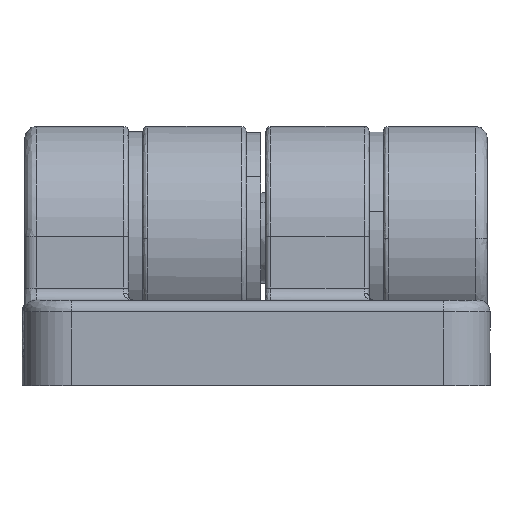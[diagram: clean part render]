
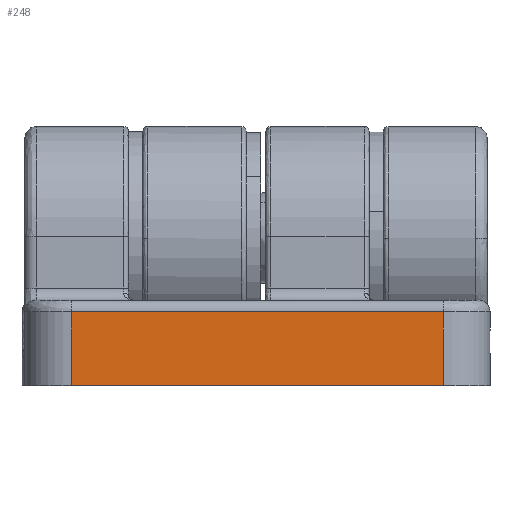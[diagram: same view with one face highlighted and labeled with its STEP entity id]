
A CAD part, left-side view. The second image highlights one B-rep face of the part: STEP entity #248.
In plain terms, the highlighted planar face has unit normal (-1, 0, 0).
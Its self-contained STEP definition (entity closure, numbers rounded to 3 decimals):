
#24 = CARTESIAN_POINT ( 'NONE',  ( -30., -4.75, -15. ) ) ;
#106 = ORIENTED_EDGE ( 'NONE', *, *, #5249, .F. ) ;
#248 = ADVANCED_FACE ( 'NONE', ( #5442 ), #5552, .T. ) ;
#469 = DIRECTION ( 'NONE',  ( 0., 0., -1. ) ) ;
#618 = LINE ( 'NONE', #24, #2907 ) ;
#708 = EDGE_CURVE ( 'NONE', #906, #4000, #732, .T. ) ;
#732 = LINE ( 'NONE', #1653, #4154 ) ;
#906 = VERTEX_POINT ( 'NONE', #3281 ) ;
#918 = ORIENTED_EDGE ( 'NONE', *, *, #4801, .T. ) ;
#1119 = LINE ( 'NONE', #1819, #5598 ) ;
#1314 = CARTESIAN_POINT ( 'NONE',  ( -30., -4., 12. ) ) ;
#1446 = EDGE_CURVE ( 'NONE', #906, #5035, #1697, .T. ) ;
#1653 = CARTESIAN_POINT ( 'NONE',  ( -30., -9.5, -15. ) ) ;
#1697 = LINE ( 'NONE', #1314, #2127 ) ;
#1819 = CARTESIAN_POINT ( 'NONE',  ( -30., -4., -12. ) ) ;
#1841 = DIRECTION ( 'NONE',  ( 0., 0., -1. ) ) ;
#1872 = DIRECTION ( 'NONE',  ( 0., 1., 0. ) ) ;
#1928 = CARTESIAN_POINT ( 'NONE',  ( -30., -4.75, -12. ) ) ;
#2127 = VECTOR ( 'NONE', #4440, 1000. ) ;
#2280 = EDGE_LOOP ( 'NONE', ( #106, #3903, #3647, #918 ) ) ;
#2599 = AXIS2_PLACEMENT_3D ( 'NONE', #4676, #3317, #3344 ) ;
#2907 = VECTOR ( 'NONE', #1841, 1000. ) ;
#3281 = CARTESIAN_POINT ( 'NONE',  ( -30., -9.5, 12. ) ) ;
#3317 = DIRECTION ( 'NONE',  ( -1., 0., 0. ) ) ;
#3344 = DIRECTION ( 'NONE',  ( 0., 0., 1. ) ) ;
#3647 = ORIENTED_EDGE ( 'NONE', *, *, #1446, .T. ) ;
#3903 = ORIENTED_EDGE ( 'NONE', *, *, #708, .F. ) ;
#4000 = VERTEX_POINT ( 'NONE', #4877 ) ;
#4154 = VECTOR ( 'NONE', #469, 1000. ) ;
#4251 = VERTEX_POINT ( 'NONE', #1928 ) ;
#4425 = CARTESIAN_POINT ( 'NONE',  ( -30., -4.75, 12. ) ) ;
#4440 = DIRECTION ( 'NONE',  ( 0., 1., 0. ) ) ;
#4676 = CARTESIAN_POINT ( 'NONE',  ( -30., -4., -15. ) ) ;
#4801 = EDGE_CURVE ( 'NONE', #5035, #4251, #618, .T. ) ;
#4877 = CARTESIAN_POINT ( 'NONE',  ( -30., -9.5, -12. ) ) ;
#5035 = VERTEX_POINT ( 'NONE', #4425 ) ;
#5249 = EDGE_CURVE ( 'NONE', #4000, #4251, #1119, .T. ) ;
#5442 = FACE_OUTER_BOUND ( 'NONE', #2280, .T. ) ;
#5552 = PLANE ( 'NONE',  #2599 ) ;
#5598 = VECTOR ( 'NONE', #1872, 1000. ) ;
